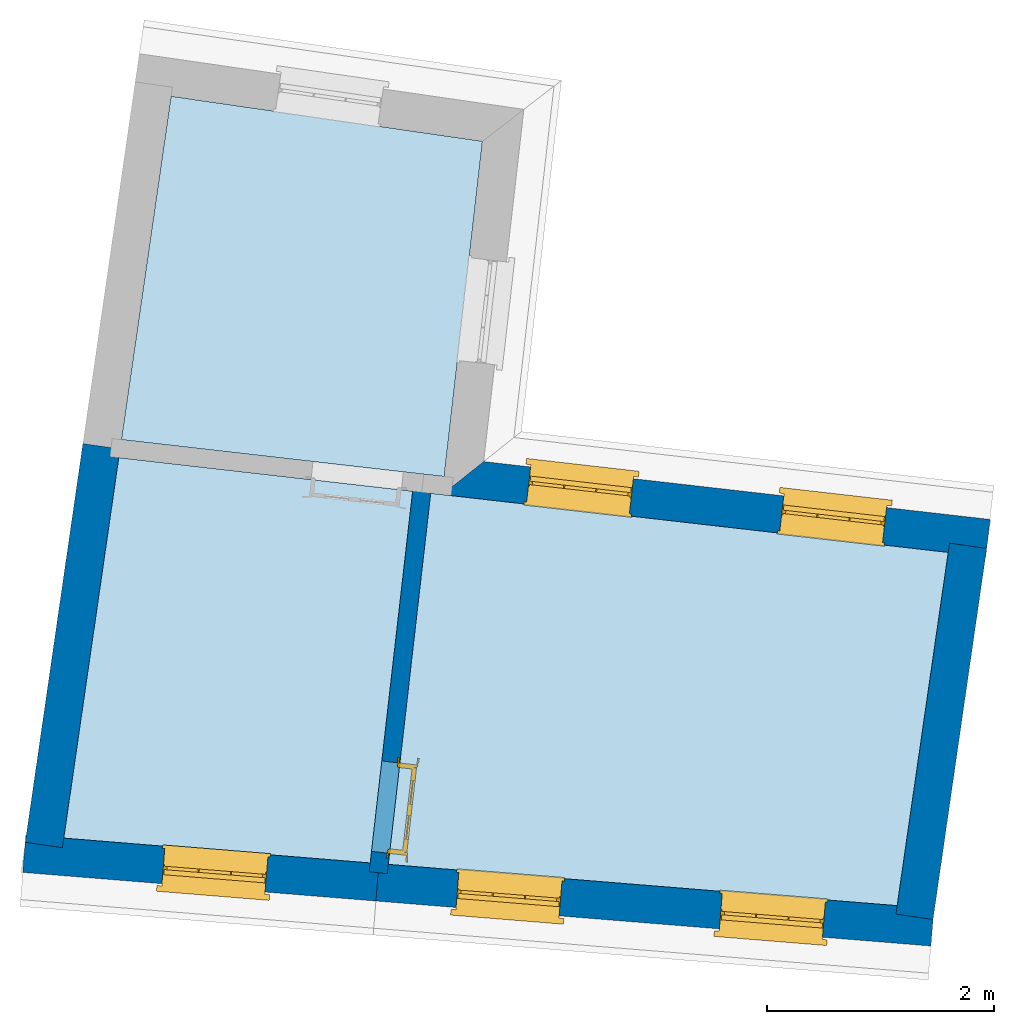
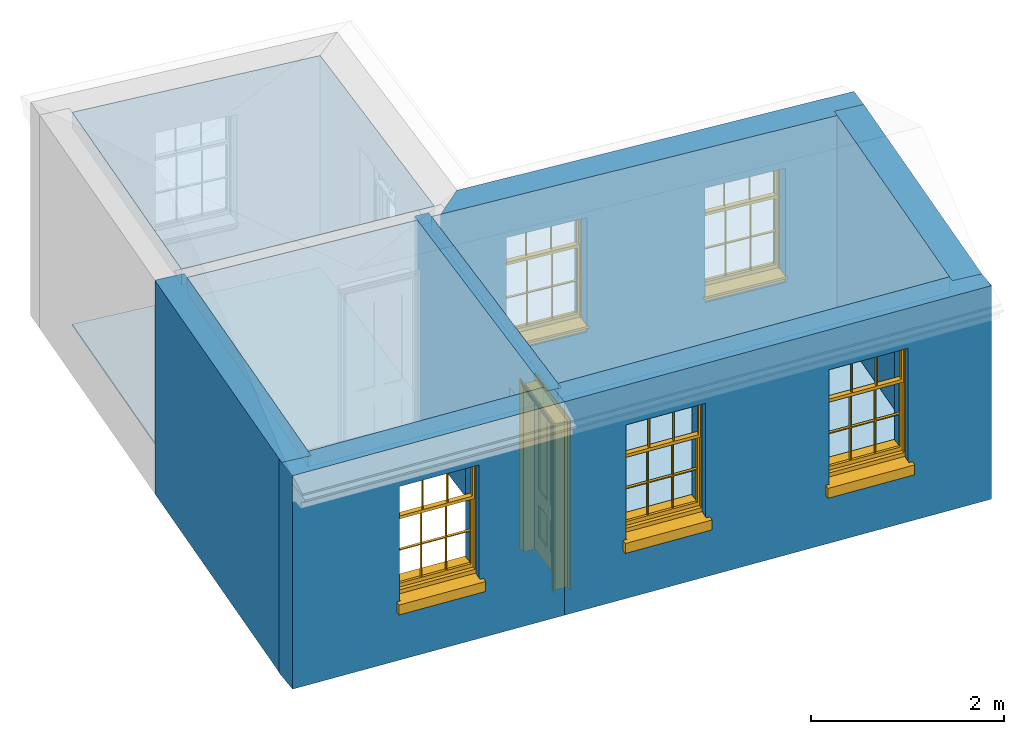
# One storey, part 1 of 3: 6 walls, 5 slabs, 5 windows, 1 door, 6 openings.
"""IFC4 building model written with IfcOpenShell, lengths in metres."""

from ifc_helpers import new_model, si_unit, frame, origin, origin_with_axes, place, context, subcontext, project, spatial, polyline, outline, extrude, faceted_brep, source, transform, mapped, material, layer, layer_set, layer_usage, type_object, type_shapes, element, fill, save


model = new_model("IFC4")

# Units and contexts
model_context = context("Model", 3, world=origin_with_axes())
body_context = subcontext(model_context, "Body", "Model", "MODEL_VIEW")
ifc_project = project(units=[si_unit("PLANEANGLEUNIT", "RADIAN"), si_unit("MASSUNIT", "GRAM", prefix="KILO"), si_unit("FORCEUNIT", "NEWTON", prefix="KILO"), si_unit("LENGTHUNIT", "METRE"), si_unit("AREAUNIT", "SQUARE_METRE"), si_unit("VOLUMEUNIT", "CUBIC_METRE")], contexts=[model_context, model_context])

# Sites, building, storey
site_1_placement = place(None, origin_with_axes())
site_1 = spatial("IfcSite", under=ifc_project, at=site_1_placement, Name="Tamar")
site_2_placement = place(site_1_placement, origin_with_axes())
site_2 = spatial("IfcSite", under=site_1, at=site_2_placement, Name="Site plot-31", CompositionType="ELEMENT")
building_placement = place(None, origin_with_axes())
building = spatial("IfcBuilding", under=site_2, at=building_placement, Name="Building plot-31", CompositionType="ELEMENT")
storey_placement = place(None, frame((0.0, 0.0, 31.35), z_axis=(0.0, 0.0, 1.0), x_axis=(1.0, 0.0, 0.0)))
storey = spatial("IfcBuildingStorey", under=building, at=storey_placement, Name="plot-31 2", CompositionType="ELEMENT", Elevation=31.35)

# Slabs
slab_1_placement = place(storey_placement, frame((300.330675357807, 260.471106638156, 2.5)))
element("IfcSlab", 1, at=slab_1_placement, inside=storey, Name="My Slab", ObjectType="Slab", PredefinedType="FLOOR", context=body_context, shape_type="SweptSolid", body=[
    extrude(outline(polyline([(0.0, 0.0), (-4.55208858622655, 0.52000624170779), (-4.92496413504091, -2.74411328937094), (-0.449277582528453, -3.10686870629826), (0.0, 0.0)])), origin_with_axes(), (0.0, 0.0, 1.0), 0.2),
])
slab_2_placement = place(storey_placement, frame((300.330675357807, 260.471106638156, 0.0)))
element("IfcSlab", 2, at=slab_2_placement, inside=storey, Name="My Slab", ObjectType="Slab", PredefinedType="FLOOR", context=body_context, shape_type="SweptSolid", body=[
    extrude(outline(polyline([(0.0, 0.0), (-4.55208858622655, 0.52000624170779), (-4.92496413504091, -2.74411328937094), (-0.449277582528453, -3.10686870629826), (0.0, 0.0)])), origin_with_axes(), (0.0, 0.0, 1.0), 0.02),
])
slab_3_placement = place(storey_placement, frame((293.034848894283, 261.304542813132, 2.5)))
element("IfcSlab", 3, at=slab_3_placement, inside=storey, Name="My Slab", ObjectType="Slab", PredefinedType="FLOOR", context=body_context, shape_type="SweptSolid", body=[
    extrude(outline(polyline([(0.0, 0.0), (-0.48388267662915, -3.34617172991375), (2.2112991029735, -3.56461682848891), (2.58477173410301, -0.29527049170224), (0.0, 0.0)])), origin_with_axes(), (0.0, 0.0, 1.0), 0.2),
])
slab_4_placement = place(storey_placement, frame((296.233911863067, 264.087379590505, 2.5)))
element("IfcSlab", 4, at=slab_4_placement, inside=storey, Name="My Slab", ObjectType="Slab", PredefinedType="FLOOR", context=body_context, shape_type="SweptSolid", body=[
    extrude(outline(polyline([(0.0, 0.0), (-2.73935903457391, 0.396132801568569), (-3.17615368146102, -2.62441323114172), (-0.336850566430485, -2.94876002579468), (0.0, 0.0)])), origin_with_axes(), (0.0, 0.0, 1.0), 0.2),
])
slab_5_placement = place(storey_placement, frame((296.233911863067, 264.087379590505, 0.0)))
element("IfcSlab", 5, at=slab_5_placement, inside=storey, Name="My Slab", ObjectType="Slab", PredefinedType="FLOOR", context=body_context, shape_type="SweptSolid", body=[
    extrude(outline(polyline([(0.0, 0.0), (-2.73935903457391, 0.396132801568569), (-3.17615368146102, -2.62441323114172), (-0.336850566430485, -2.94876002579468), (0.0, 0.0)])), origin_with_axes(), (0.0, 0.0, 1.0), 0.02),
])

# Wall, openings, windows
ifc_material_1 = material(Name="Masonry")
ifc_layer_1 = layer(ifc_material_1, 0.33, ventilated=False)
ifc_layer_set_1 = layer_set([ifc_layer_1], Name="exterior_0.08_0.25")
ifc_layer_usage_1 = layer_usage(ifc_layer_set_1, "AXIS2", "POSITIVE", -0.25)
wall_type_1 = type_object("IfcWallType", Name="exterior_0.08_0.25", PredefinedType="SOLIDWALL", material=ifc_layer_set_1)
wall_1_placement = place(storey_placement, frame((300.42164854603, 260.541234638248, 0.0), z_axis=(0.0, 0.0, 1.0), x_axis=(-0.993538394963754, 0.113496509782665, 0.0)))
wall_1 = element("IfcWall", 6, at=wall_1_placement, inside=storey, type_object=wall_type_1, material=ifc_layer_usage_1, Name="exterior", context=body_context, shape_type="SweptSolid", body=[
    extrude(outline(polyline([(-0.249999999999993, 0.0800000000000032), (-0.249999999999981, -0.249999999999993), (4.2331522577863, -0.249999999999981), (4.56315225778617, 0.0800000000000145), (-0.249999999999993, 0.0800000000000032)])), origin_with_axes(), (0.0, 0.0, 1.0), 2.7),
])
opening_1_placement = place(wall_1_placement, frame((0.665788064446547, 0.0, 0.75)))
opening_1 = element("IfcOpeningElement", 7, at=opening_1_placement, cuts=wall_1, Name="My Opening", ObjectType="Opening", context=body_context, shape_type="SweptSolid", body=[
    extrude(outline(polyline([(0.0, -0.27000000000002), (0.909999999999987, -0.270000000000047), (0.910000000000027, 1.09999999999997), (3.97459842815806e-14, 1.1), (0.0, -0.27000000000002)])), origin_with_axes(), (0.0, 0.0, 1.0), 1.445),
])
opening_2_placement = place(wall_1_placement, frame((2.90736419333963, 0.0, 0.75)))
opening_2 = element("IfcOpeningElement", 8, at=opening_2_placement, cuts=wall_1, Name="My Opening", ObjectType="Opening", context=body_context, shape_type="SweptSolid", body=[
    extrude(outline(polyline([(0.0, -0.269999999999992), (0.909999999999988, -0.270000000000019), (0.910000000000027, 1.1), (4.04121180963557e-14, 1.10000000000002), (0.0, -0.269999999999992)])), origin_with_axes(), (0.0, 0.0, 1.0), 1.445),
])
window_type = type_object("IfcWindowType", Name="sash_shorter", PartitioningType="DOUBLE_PANEL_HORIZONTAL", PredefinedType="NOTDEFINED")
shared_shape_1 = source(origin(), body_context, "Body", "Brep", [
    faceted_brep([(0.876875, 0.145, 0.999097), (0.876875, 0.145, 1.411875), (0.9, 0.145, 1.435), (0.033125, 0.145, 1.411875), (0.033125, 0.145, 0.999097), (0.01, 0.145, 1.435), (0.033125, 0.115, 1.411875), (0.01, 0.115, 1.435), (0.033125, 0.115, 0.999097), (0.876875, 0.115, 1.411875), (0.876875, 0.115, 0.999097), (0.9, 0.115, 1.435), (0.033125, 0.145, 0.960972), (0.01, 0.145, 0.960972), (0.033125, 0.145, 0.548195), (0.876875, 0.145, 0.960972), (0.876875, 0.145, 0.548195), (0.9, 0.145, 0.960972), (0.876875, 0.145, 0.538195), (0.876875, 0.145, 0.125417), (0.9, 0.145, 0.077167), (0.033125, 0.145, 0.125417), (0.033125, 0.145, 0.538195), (0.01, 0.145, 0.077167), (0.9, 0.115, 0.960972), (0.01, 0.115, 0.960972), (-0.0425, 0.0, 0.01), (-0.0425, -0.05, 0.001667), (0.0, 0.0, 0.01), (0.9525, 0.0, 0.01), (0.91, 0.0, 0.01), (0.9525, -0.05, 0.001667), (-0.02, 0.33, 0.077167), (0.0, 0.33, 0.077167), (-0.02, 0.36, 0.077167), (0.0, 0.19, 0.077167), (0.01, 0.19, 0.077167), (0.91, 0.19, 0.077167), (0.91, 0.33, 0.077167), (0.9, 0.19, 0.077167), (0.93, 0.33, 0.077167), (0.93, 0.36, 0.077167), (0.01, 0.145, 0.999097), (0.01, 0.175, 0.999097), (0.9, 0.145, 0.999097), (0.9, 0.175, 0.999097), (0.876875, 0.175, 0.125417), (0.876875, 0.175, 0.538195), (0.9, 0.175, 0.077167), (0.876875, 0.175, 0.548195), (0.876875, 0.175, 0.960972), (0.033125, 0.175, 0.125417), (0.01, 0.175, 0.077167), (0.033125, 0.175, 0.538195), (0.033125, 0.175, 0.960972), (0.033125, 0.175, 0.548195), (-0.02, 0.33, 0.052167), (-0.02, 0.36, 0.052167), (0.93, 0.36, 0.052167), (0.93, 0.33, 0.052167), (0.91, 0.33, 0.052167), (0.0, 0.33, 0.052167), (0.91, 0.1, 0.026667), (0.0, 0.1, 0.026667), (-0.0425, -0.05, -0.123333), (0.9525, -0.05, -0.123333), (-0.0425, 0.0, -0.123333), (0.9525, 0.0, -0.123333), (0.01, 0.19, 1.435), (0.9, 0.19, 1.435), (0.0, 0.19, 1.445), (0.91, 0.19, 1.445), (0.01, 0.1, 0.077167), (0.9, 0.1, 0.077167), (0.592292, 0.145, 0.125417), (0.592292, 0.175, 0.125417), (0.317708, 0.175, 0.125417), (0.317708, 0.145, 0.125417), (0.592292, 0.145, 0.548195), (0.317708, 0.145, 0.548195), (0.317708, 0.145, 0.538195), (0.592292, 0.145, 0.538195), (0.592292, 0.175, 0.548195), (0.317708, 0.175, 0.548195), (0.602292, 0.175, 0.548195), (0.602292, 0.145, 0.548195), (0.317708, 0.175, 0.538195), (0.307708, 0.175, 0.125417), (0.307708, 0.175, 0.538195), (0.602292, 0.175, 0.538195), (0.602292, 0.175, 0.125417), (0.592292, 0.175, 0.538195), (0.307708, 0.175, 0.548195), (0.317708, 0.175, 0.960972), (0.307708, 0.175, 0.960972), (0.602292, 0.175, 0.960972), (0.592292, 0.175, 0.960972), (0.307708, 0.145, 0.538195), (0.307708, 0.145, 0.125417), (0.307708, 0.145, 0.548195), (0.307708, 0.145, 0.960972), (0.592292, 0.145, 0.960972), (0.317708, 0.145, 0.960972), (0.602292, 0.145, 0.960972), (0.602292, 0.145, 0.538195), (0.602292, 0.145, 0.125417), (0.317708, 0.115, 1.411875), (0.307708, 0.115, 1.411875), (0.307708, 0.115, 0.999097), (0.317708, 0.115, 0.999097), (0.602292, 0.115, 1.411875), (0.592292, 0.115, 1.411875), (0.592292, 0.115, 0.999097), (0.602292, 0.115, 0.999097), (0.317708, 0.145, 0.999097), (0.307708, 0.145, 0.999097), (0.307708, 0.145, 1.411875), (0.317708, 0.145, 1.411875), (0.602292, 0.145, 0.999097), (0.592292, 0.145, 0.999097), (0.592292, 0.145, 1.411875), (0.602292, 0.145, 1.411875), (0.91, 0.1, 1.445), (0.9, 0.1, 1.435), (0.01, 0.1, 1.435), (0.0, 0.1, 1.445), (0.91, 0.0, 0.0), (0.0, 0.0, 0.0), (0.91, 0.33, 0.0), (0.0, 0.33, 0.0)], [[[0, 1, 2]], [[3, 4, 5]], [[6, 7, 8]], [[9, 10, 11]], [[12, 13, 14]], [[15, 16, 17]], [[18, 19, 20]], [[21, 22, 23]], [[24, 15, 17]], [[13, 12, 25]], [[26, 27, 28]], [[29, 30, 31]], [[32, 33, 34]], [[35, 36, 33]], [[37, 38, 39]], [[40, 41, 38]], [[42, 4, 43]], [[44, 45, 0]], [[46, 47, 48]], [[49, 50, 45]], [[51, 52, 53]], [[54, 55, 43]], [[38, 33, 36, 39]], [[41, 34, 33, 38]], [[56, 32, 34, 57]], [[57, 34, 41, 58]], [[58, 41, 40, 59]], [[57, 58, 60, 61]], [[52, 48, 39, 36]], [[62, 63, 28, 30]], [[27, 31, 30, 28]], [[27, 64, 65, 31]], [[66, 67, 65, 64]], [[2, 5, 68, 69]], [[68, 70, 71, 69]], [[20, 23, 72, 73]], [[73, 72, 63, 62]], [[74, 75, 76, 77]], [[78, 79, 80, 81]], [[78, 82, 83, 79]], [[16, 49, 84, 85]], [[86, 76, 87, 88]], [[89, 90, 75, 91]], [[92, 88, 53, 55]], [[82, 91, 86, 83]], [[93, 83, 92, 94]], [[95, 84, 82, 96]], [[89, 84, 49, 47]], [[97, 88, 87, 98]], [[22, 53, 88, 97]], [[81, 91, 75, 74]], [[80, 86, 91, 81]], [[77, 76, 86, 80]], [[99, 92, 55, 14]], [[100, 94, 92, 99]], [[101, 96, 82, 78]], [[79, 83, 93, 102]], [[85, 84, 95, 103]], [[104, 89, 47, 18]], [[105, 90, 89, 104]], [[104, 18, 16, 85]], [[80, 97, 98, 77]], [[104, 81, 74, 105]], [[103, 101, 78, 85]], [[99, 14, 22, 97]], [[102, 100, 99, 79]], [[106, 107, 108, 109]], [[110, 111, 112, 113]], [[114, 115, 116, 117]], [[118, 119, 120, 121]], [[107, 116, 115, 108]], [[111, 120, 119, 112]], [[109, 114, 117, 106]], [[113, 118, 121, 110]], [[85, 78, 81, 104]], [[84, 89, 91, 82]], [[83, 86, 88, 92]], [[79, 99, 97, 80]], [[109, 112, 119, 114]], [[102, 93, 96, 101]], [[106, 117, 120, 111]], [[98, 87, 51, 21]], [[6, 3, 116, 107]], [[110, 121, 1, 9]], [[19, 46, 90, 105]], [[26, 66, 64, 27]], [[29, 31, 65, 67]], [[25, 24, 112, 109]], [[11, 7, 106, 111]], [[75, 48, 52, 76]], [[43, 45, 96, 93]], [[45, 43, 114, 119]], [[5, 2, 120, 117]], [[24, 25, 102, 101]], [[42, 5, 4]], [[2, 44, 0]], [[49, 45, 48, 47]], [[52, 43, 55, 53]], [[14, 13, 23, 22]], [[20, 17, 16, 18]], [[24, 11, 10]], [[25, 8, 7]], [[8, 4, 3, 6]], [[9, 1, 0, 10]], [[15, 50, 49, 16]], [[18, 47, 46, 19]], [[21, 51, 53, 22]], [[14, 55, 54, 12]], [[44, 2, 69, 45]], [[68, 5, 42, 43]], [[36, 35, 70, 68]], [[39, 69, 71, 37]], [[62, 122, 123, 73]], [[63, 72, 124, 125]], [[8, 108, 115, 4]], [[113, 10, 0, 118]], [[94, 100, 12, 54]], [[17, 20, 73, 24]], [[72, 23, 13, 25]], [[52, 36, 68, 43]], [[69, 39, 48, 45]], [[11, 24, 73, 123]], [[7, 124, 72, 25]], [[23, 77, 98]], [[98, 21, 23]], [[105, 74, 20]], [[20, 19, 105]], [[20, 74, 77, 23]], [[113, 112, 24]], [[24, 10, 113]], [[25, 109, 108]], [[108, 8, 25]], [[110, 9, 11]], [[11, 111, 110]], [[7, 6, 107]], [[107, 106, 7]], [[5, 117, 116]], [[116, 3, 5]], [[121, 120, 2]], [[2, 1, 121]], [[11, 123, 124, 7]], [[122, 125, 124, 123]], [[43, 93, 94]], [[94, 54, 43]], [[96, 45, 95]], [[50, 95, 45]], [[15, 103, 95, 50]], [[48, 75, 90]], [[90, 46, 48]], [[87, 76, 52]], [[52, 51, 87]], [[103, 15, 24]], [[24, 101, 103]], [[100, 102, 25]], [[25, 12, 100]], [[115, 114, 43]], [[43, 4, 115]], [[118, 0, 45]], [[45, 119, 118]], [[71, 70, 125, 122]], [[70, 35, 63, 125]], [[122, 62, 37, 71]], [[126, 67, 66, 127]], [[60, 58, 59]], [[38, 60, 59, 40]], [[61, 56, 57]], [[32, 56, 61, 33]], [[61, 60, 128, 129]], [[62, 60, 38, 37]], [[126, 128, 60, 62]], [[33, 61, 63, 35]], [[61, 129, 127, 63]], [[128, 126, 127, 129]], [[28, 127, 66, 26]], [[63, 127, 28]], [[29, 67, 126, 30]], [[30, 126, 62]]]),
])
type_shapes(window_type, [shared_shape_1])
window_1_placement = place(storey_placement, frame((299.790806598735, 260.885054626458, 0.75), z_axis=(0.0, 0.0, 1.0), x_axis=(-0.904119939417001, 0.10328182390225, 0.0)))
window_1 = element("IfcWindow", 9, at=window_1_placement, inside=storey, type_object=window_type, Name="bedroom outside window", OverallHeight=1.445, OverallWidth=0.91, context=body_context, shape_type="MappedRepresentation", body=[
    mapped(shared_shape_1, transform((0.0, 0.0, 0.0), scale=1.0)),
])
fill(opening_1, window_1)
window_2_placement = place(storey_placement, frame((297.563714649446, 261.139465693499, 0.75), z_axis=(0.0, 0.0, 1.0), x_axis=(-0.904119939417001, 0.10328182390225, 0.0)))
window_2 = element("IfcWindow", 10, at=window_2_placement, inside=storey, type_object=window_type, Name="bedroom outside window", OverallHeight=1.445, OverallWidth=0.91, context=body_context, shape_type="MappedRepresentation", body=[
    mapped(shared_shape_1, transform((0.0, 0.0, 0.0), scale=1.0)),
])
fill(opening_2, window_2)

# Wall, opening, window
wall_2_placement = place(storey_placement, frame((292.459598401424, 257.885514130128, 0.0), z_axis=(0.0, 0.0, 1.0), x_axis=(0.996731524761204, -0.0807853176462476, 0.0)))
wall_2 = element("IfcWall", 11, at=wall_2_placement, inside=storey, type_object=wall_type_1, material=ifc_layer_usage_1, Name="exterior", context=body_context, shape_type="SweptSolid", body=[
    extrude(outline(polyline([(-0.249999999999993, 0.0800000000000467), (-0.25000000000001, -0.249999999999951), (2.86661604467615, -0.249999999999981), (2.86661604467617, 0.0800000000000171), (-0.249999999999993, 0.0800000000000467)])), origin_with_axes(), (0.0, 0.0, 1.0), 2.7),
])
opening_3_placement = place(wall_2_placement, frame((0.978308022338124, 0.0, 0.75)))
opening_3 = element("IfcOpeningElement", 12, at=opening_3_placement, cuts=wall_2, Name="My Opening", ObjectType="Opening", context=body_context, shape_type="SweptSolid", body=[
    extrude(outline(polyline([(0.0, -0.270000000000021), (0.909999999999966, -0.26999999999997), (0.909999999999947, 1.10000000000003), (-1.97619698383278e-14, 1.09999999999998), (0.0, -0.270000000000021)])), origin_with_axes(), (0.0, 0.0, 1.0), 1.445),
])
window_3_placement = place(storey_placement, frame((293.412896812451, 257.537363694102, 0.75), z_axis=(0.0, 0.0, 1.0), x_axis=(0.907025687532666, -0.0735146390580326, 0.0)))
window_3 = element("IfcWindow", 13, at=window_3_placement, inside=storey, type_object=window_type, Name="circulation outside window", OverallHeight=1.445, OverallWidth=0.91, context=body_context, shape_type="MappedRepresentation", body=[
    mapped(shared_shape_1, transform((0.0, 0.0, 0.0), scale=1.0)),
])
fill(opening_3, window_3)

# Wall, openings, windows
wall_3_placement = place(storey_placement, frame((295.316844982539, 257.653933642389, 0.0), z_axis=(0.0, 0.0, 1.0), x_axis=(0.99673152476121, -0.0807853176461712, 0.0)))
wall_3 = element("IfcWall", 14, at=wall_3_placement, inside=storey, type_object=wall_type_1, material=ifc_layer_usage_1, Name="exterior", context=body_context, shape_type="SweptSolid", body=[
    extrude(outline(polyline([(-6.79854810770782e-15, 0.080000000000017), (-4.88957373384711e-14, -0.24999999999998), (4.8981688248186, -0.249999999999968), (4.89816882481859, 0.0800000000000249), (-6.79854810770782e-15, 0.080000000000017)])), origin_with_axes(), (0.0, 0.0, 1.0), 2.7),
])
opening_4_placement = place(wall_3_placement, frame((0.707042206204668, 0.0, 0.75)))
opening_4 = element("IfcOpeningElement", 15, at=opening_4_placement, cuts=wall_3, Name="My Opening", ObjectType="Opening", context=body_context, shape_type="SweptSolid", body=[
    extrude(outline(polyline([(0.0, -0.269999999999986), (0.909999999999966, -0.270000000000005), (0.909999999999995, 1.09999999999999), (2.87547763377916e-14, 1.10000000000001), (0.0, -0.269999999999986)])), origin_with_axes(), (0.0, 0.0, 1.0), 1.445),
])
opening_5_placement = place(wall_3_placement, frame((3.03112661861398, 0.0, 0.75)))
opening_5 = element("IfcOpeningElement", 16, at=opening_5_placement, cuts=wall_3, Name="My Opening", ObjectType="Opening", context=body_context, shape_type="SweptSolid", body=[
    extrude(outline(polyline([(0.0, -0.269999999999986), (0.909999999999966, -0.270000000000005), (0.909999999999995, 1.09999999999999), (2.8421709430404e-14, 1.10000000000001), (0.0, -0.269999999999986)])), origin_with_axes(), (0.0, 0.0, 1.0), 1.445),
])
window_4_placement = place(storey_placement, frame((295.999764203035, 257.327697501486, 0.75), z_axis=(0.0, 0.0, 1.0), x_axis=(0.907025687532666, -0.0735146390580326, 0.0)))
window_4 = element("IfcWindow", 17, at=window_4_placement, inside=storey, type_object=window_type, Name="bedroom outside window", OverallHeight=1.445, OverallWidth=0.91, context=body_context, shape_type="MappedRepresentation", body=[
    mapped(shared_shape_1, transform((0.0, 0.0, 0.0), scale=1.0)),
])
fill(opening_4, window_4)
window_5_placement = place(storey_placement, frame((298.31625240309, 257.139945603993, 0.75), z_axis=(0.0, 0.0, 1.0), x_axis=(0.907025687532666, -0.0735146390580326, 0.0)))
window_5 = element("IfcWindow", 18, at=window_5_placement, inside=storey, type_object=window_type, Name="bedroom outside window", OverallHeight=1.445, OverallWidth=0.91, context=body_context, shape_type="MappedRepresentation", body=[
    mapped(shared_shape_1, transform((0.0, 0.0, 0.0), scale=1.0)),
])
fill(opening_5, window_5)

# Walls
ifc_material_2 = material(Name="Masonry")
ifc_layer_2 = layer(ifc_material_2, 0.33, ventilated=False)
ifc_layer_set_2 = layer_set([ifc_layer_2], Name="party_0.08_0.25")
ifc_layer_usage_2 = layer_usage(ifc_layer_set_2, "AXIS2", "POSITIVE", -0.25)
wall_type_2 = type_object("IfcWallType", Name="party_0.08_0.25", PredefinedType="SOLIDWALL", material=ifc_layer_set_2)
wall_4_placement = place(storey_placement, frame((299.949821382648, 257.278429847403, 0.0), z_axis=(0.0, 0.0, 1.0), x_axis=(0.143119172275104, 0.989705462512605, 0.0)))
element("IfcWall", 19, at=wall_4_placement, inside=storey, type_object=wall_type_2, material=ifc_layer_usage_2, Name="party", context=body_context, shape_type="SweptSolid", body=[
    extrude(outline(polyline([(2.42074388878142e-15, 0.0800000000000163), (-2.2744263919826e-14, -0.249999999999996), (3.29674323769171, -0.249999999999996), (3.29674323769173, 0.080000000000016), (2.42074388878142e-15, 0.0800000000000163)])), origin_with_axes(), (0.0, 0.0, 1.0), 2.7),
])
wall_5_placement = place(storey_placement, frame((292.966784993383, 261.392838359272, 0.0), z_axis=(0.0, 0.0, 1.0), x_axis=(-0.143119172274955, -0.989705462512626, 0.0)))
element("IfcWall", 20, at=wall_5_placement, inside=storey, type_object=wall_type_2, material=ifc_layer_usage_2, Name="party", context=body_context, shape_type="SweptSolid", body=[
    extrude(outline(polyline([(1.44803760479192e-14, 0.0800000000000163), (-6.03808244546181e-14, -0.249999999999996), (3.54380607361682, -0.249999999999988), (3.54380607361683, 0.0800000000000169), (1.44803760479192e-14, 0.0800000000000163)])), origin_with_axes(), (0.0, 0.0, 1.0), 2.7),
])

# Wall, opening, door
ifc_material_3 = material(Name="Masonry")
ifc_layer_3 = layer(ifc_material_3, 0.16, ventilated=False)
ifc_layer_set_3 = layer_set([ifc_layer_3], Name="interior_0.08_0.08")
ifc_layer_usage_3 = layer_usage(ifc_layer_set_3, "AXIS2", "POSITIVE", -0.08)
wall_type_3 = type_object("IfcWallType", Name="interior_0.08_0.08", PredefinedType="SOLIDWALL", material=ifc_layer_set_3)
wall_6_placement = place(storey_placement, frame((295.708183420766, 261.079675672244, 0.0), z_axis=(0.0, 0.0, 1.0), x_axis=(-0.113496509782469, -0.993538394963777, 0.0)))
wall_6 = element("IfcWall", 21, at=wall_6_placement, inside=storey, type_object=wall_type_3, material=ifc_layer_usage_3, Name="interior", context=body_context, shape_type="SweptSolid", body=[
    extrude(outline(polyline([(9.93290253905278e-15, 0.0800000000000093), (-9.97822685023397e-15, -0.0800000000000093), (3.44802178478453, -0.0800000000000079), (3.44802178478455, 0.0800000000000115), (9.93290253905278e-15, 0.0800000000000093)])), origin_with_axes(), (0.0, 0.0, 1.0), 2.7),
])
opening_6_placement = place(wall_6_placement, frame((2.4680217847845, 0.0, 0.0199999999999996)))
opening_6 = element("IfcOpeningElement", 22, at=opening_6_placement, cuts=wall_6, Name="My Opening", ObjectType="Opening", context=body_context, shape_type="SweptSolid", body=[
    extrude(outline(polyline([(0.0, -0.100000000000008), (0.800000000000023, -0.100000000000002), (0.80000000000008, 1.09999999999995), (5.55111512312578e-14, 1.09999999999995), (0.0, -0.100000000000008)])), origin_with_axes(), (0.0, 0.0, 1.0), 2.1),
])
door_type = type_object("IfcDoorType", Name="door_inside", OperationType="SINGLE_SWING_LEFT", PredefinedType="NOTDEFINED")
shared_shape_2 = source(origin(), body_context, "Body", "Brep", [
    faceted_brep([(0.773, 0.33, 1.895), (0.66, 0.33, 1.895), (0.66, 0.33, 2.073), (0.773, 0.33, 2.073), (0.773, 0.33, 0.82), (0.66, 0.33, 0.82), (0.45, 0.33, 1.895), (0.45, 0.33, 2.073), (0.773, 0.33, 0.62), (0.66, 0.33, 0.62), (0.66, 0.315, 0.82), (0.66, 0.315, 1.895), (0.45, 0.315, 1.895), (0.35, 0.33, 1.895), (0.35, 0.33, 2.073), (0.773, 0.33, 0.225), (0.66, 0.33, 0.225), (0.45, 0.33, 0.62), (0.45, 0.33, 0.82), (0.45, 0.315, 0.82), (0.35, 0.33, 0.82), (0.14, 0.33, 2.073), (0.14, 0.33, 1.895), (0.773, 0.33, 0.0), (0.66, 0.33, 0.0), (0.66, 0.315, 0.225), (0.66, 0.315, 0.62), (0.45, 0.315, 0.62), (0.35, 0.33, 0.62), (0.35, 0.315, 0.82), (0.35, 0.315, 1.895), (0.14, 0.315, 1.895), (0.027, 0.33, 2.073), (0.027, 0.33, 1.895), (0.773, 0.292, 0.0), (0.66, 0.292, 0.0), (0.45, 0.33, 0.0), (0.45, 0.33, 0.225), (0.45, 0.315, 0.225), (0.35, 0.33, 0.225), (0.14, 0.33, 0.82), (0.14, 0.33, 0.62), (0.14, 0.315, 0.82), (0.027, 0.33, 0.82), (0.773, 0.292, 0.225), (0.66, 0.292, 0.225), (0.45, 0.292, 0.0), (0.35, 0.33, 0.0), (0.35, 0.315, 0.225), (0.35, 0.315, 0.62), (0.14, 0.315, 0.62), (0.027, 0.33, 0.62), (0.773, 0.292, 0.62), (0.66, 0.292, 0.62), (0.45, 0.292, 0.225), (0.35, 0.292, 0.0), (0.14, 0.33, 0.225), (0.14, 0.33, 0.0), (0.14, 0.315, 0.225), (0.027, 0.33, 0.225), (0.773, 0.292, 0.82), (0.66, 0.292, 0.82), (0.66, 0.307, 0.62), (0.66, 0.307, 0.225), (0.45, 0.307, 0.225), (0.35, 0.292, 0.225), (0.14, 0.292, 0.0), (0.027, 0.33, 0.0), (0.773, 0.292, 1.895), (0.66, 0.292, 1.895), (0.45, 0.292, 0.62), (0.45, 0.292, 0.82), (0.45, 0.307, 0.62), (0.35, 0.292, 0.62), (0.14, 0.292, 0.225), (0.027, 0.292, 0.0), (0.773, 0.292, 2.073), (0.66, 0.292, 2.073), (0.66, 0.307, 1.895), (0.66, 0.307, 0.82), (0.45, 0.307, 0.82), (0.35, 0.292, 0.82), (0.35, 0.307, 0.62), (0.35, 0.307, 0.225), (0.14, 0.307, 0.225), (0.027, 0.292, 0.225), (0.45, 0.292, 1.895), (0.45, 0.292, 2.073), (0.45, 0.307, 1.895), (0.35, 0.292, 1.895), (0.14, 0.292, 0.82), (0.14, 0.292, 0.62), (0.14, 0.307, 0.62), (0.027, 0.292, 0.62), (0.35, 0.292, 2.073), (0.35, 0.307, 1.895), (0.35, 0.307, 0.82), (0.14, 0.307, 0.82), (0.027, 0.292, 0.82), (0.14, 0.292, 2.073), (0.14, 0.292, 1.895), (0.14, 0.307, 1.895), (0.027, 0.292, 1.895), (0.027, 0.292, 2.073), (0.02, 0.335, 0.0), (0.005, 0.34, 0.0), (0.005, 0.34, 2.095), (0.02, 0.335, 2.08), (0.02, 0.33, 0.0), (0.0, 0.335, 0.0), (0.0, 0.335, 2.1), (0.795, 0.34, 2.095), (0.78, 0.335, 2.08), (0.02, 0.33, 2.08), (0.0, 0.33, 0.0), (-0.032, 0.345, 0.0), (-0.032, 0.345, 2.132), (0.8, 0.335, 2.1), (0.795, 0.34, 0.0), (0.78, 0.335, 0.0), (0.78, 0.33, 2.08), (0.04, 0.29, 0.0), (0.025, 0.29, 0.0), (0.025, 0.29, 2.075), (0.04, 0.29, 2.06), (-0.04, 0.34, 0.0), (-0.04, 0.34, 2.14), (0.832, 0.345, 2.132), (0.8, 0.335, 0.0), (0.78, 0.33, 0.0), (0.8, 0.33, 0.0), (0.86, 0.33, 0.0), (0.86, 0.33, 2.16), (0.8, 0.33, 2.1), (-0.06, 0.33, 2.16), (0.0, 0.33, 2.1), (-0.06, 0.33, 0.0), (-0.04, 0.345, 0.0), (-0.04, 0.345, 2.14), (0.84, 0.34, 2.14), (0.832, 0.345, 0.0), (0.84, 0.34, 0.0), (0.86, 0.345, 0.0), (0.86, 0.345, 2.16), (-0.06, 0.345, 2.16), (-0.06, 0.345, 0.0), (0.84, 0.345, 0.0), (0.84, 0.345, 2.14), (-0.025, 0.155, 0.0), (-0.025, 0.16, 0.0), (-0.025, 0.16, 2.125), (-0.025, 0.155, 2.125), (-0.017, 0.155, 0.0), (-0.017, 0.155, 2.117), (0.825, 0.16, 2.125), (0.825, 0.155, 2.125), (0.825, 0.155, 0.0), (0.845, 0.155, 0.0), (-0.045, 0.155, 2.145), (-0.045, 0.155, 0.0), (0.845, 0.155, 2.145), (0.015, 0.165, 0.0), (0.015, 0.165, 2.085), (0.817, 0.155, 2.117), (0.825, 0.16, 0.0), (0.845, 0.17, 0.0), (0.845, 0.17, 2.145), (-0.045, 0.17, 2.145), (-0.045, 0.17, 0.0), (0.02, 0.16, 0.0), (0.02, 0.16, 2.08), (0.785, 0.165, 2.085), (0.817, 0.155, 0.0), (0.8, 0.17, 0.0), (0.8, 0.17, 2.1), (0.0, 0.17, 2.1), (0.0, 0.17, 0.0), (0.035, 0.165, 0.0), (0.035, 0.165, 2.065), (0.78, 0.16, 2.08), (0.785, 0.165, 0.0), (0.775, 0.29, 2.075), (0.76, 0.29, 2.06), (0.035, 0.17, 2.065), (0.035, 0.17, 0.0), (0.765, 0.165, 2.065), (0.78, 0.16, 0.0), (0.765, 0.17, 0.0), (0.765, 0.17, 2.065), (0.765, 0.165, 0.0), (0.04, 0.17, 2.06), (0.04, 0.17, 0.0), (0.76, 0.17, 2.06), (0.76, 0.17, 0.0), (0.76, 0.29, 0.0), (0.775, 0.29, 0.0), (0.025, 0.33, 0.0), (0.025, 0.33, 2.075), (0.775, 0.33, 0.0), (0.775, 0.33, 2.075)], [[[0, 1, 2, 3]], [[1, 0, 4, 5]], [[1, 6, 7, 2]], [[8, 9, 5, 4]], [[1, 5, 10, 11]], [[6, 1, 11, 12]], [[6, 13, 14, 7]], [[15, 16, 9, 8]], [[9, 17, 18, 5]], [[5, 18, 19, 10]], [[10, 19, 12, 11]], [[18, 6, 12, 19]], [[18, 20, 13, 6]], [[21, 14, 13, 22]], [[23, 24, 16, 15]], [[9, 16, 25, 26]], [[17, 9, 26, 27]], [[17, 28, 20, 18]], [[13, 20, 29, 30]], [[22, 13, 30, 31]], [[32, 21, 22, 33]], [[34, 35, 24, 23]], [[24, 36, 37, 16]], [[16, 37, 38, 25]], [[25, 38, 27, 26]], [[37, 17, 27, 38]], [[37, 39, 28, 17]], [[40, 20, 28, 41]], [[20, 40, 42, 29]], [[31, 30, 29, 42]], [[40, 22, 31, 42]], [[33, 22, 40, 43]], [[35, 34, 44, 45]], [[35, 46, 36, 24]], [[36, 47, 39, 37]], [[28, 39, 48, 49]], [[41, 28, 49, 50]], [[43, 40, 41, 51]], [[45, 44, 52, 53]], [[46, 35, 45, 54]], [[46, 55, 47, 36]], [[56, 39, 47, 57]], [[39, 56, 58, 48]], [[50, 49, 48, 58]], [[56, 41, 50, 58]], [[51, 41, 56, 59]], [[53, 52, 60, 61]], [[45, 53, 62, 63]], [[54, 45, 63, 64]], [[55, 46, 54, 65]], [[55, 66, 57, 47]], [[59, 56, 57, 67]], [[61, 60, 68, 69]], [[70, 53, 61, 71]], [[53, 70, 72, 62]], [[72, 64, 63, 62]], [[70, 54, 64, 72]], [[65, 54, 70, 73]], [[65, 74, 66, 55]], [[67, 57, 66, 75]], [[69, 68, 76, 77]], [[61, 69, 78, 79]], [[71, 61, 79, 80]], [[73, 70, 71, 81]], [[65, 73, 82, 83]], [[74, 65, 83, 84]], [[74, 85, 75, 66]], [[86, 69, 77, 87]], [[69, 86, 88, 78]], [[88, 80, 79, 78]], [[86, 71, 80, 88]], [[81, 71, 86, 89]], [[73, 81, 90, 91]], [[73, 91, 92, 82]], [[83, 82, 92, 84]], [[91, 74, 84, 92]], [[91, 93, 85, 74]], [[89, 86, 87, 94]], [[81, 89, 95, 96]], [[90, 81, 96, 97]], [[90, 98, 93, 91]], [[94, 99, 100, 89]], [[89, 100, 101, 95]], [[101, 97, 96, 95]], [[100, 90, 97, 101]], [[100, 102, 98, 90]], [[99, 103, 102, 100]], [[32, 103, 99, 21]], [[102, 103, 32, 33]], [[98, 102, 33, 43]], [[21, 99, 94, 14]], [[94, 87, 7, 14]], [[7, 87, 77, 2]], [[76, 3, 2, 77]], [[43, 51, 93, 98]], [[51, 59, 85, 93]], [[67, 75, 85, 59]], [[34, 23, 15, 44]], [[44, 15, 8, 52]], [[52, 8, 4, 60]], [[0, 68, 60, 4]], [[0, 3, 76, 68]], [[104, 105, 106, 107]], [[104, 108, 109, 105]], [[105, 109, 110, 106]], [[107, 106, 111, 112]], [[107, 113, 108, 104]], [[114, 109, 108]], [[109, 115, 116, 110]], [[106, 110, 117, 111]], [[112, 111, 118, 119]], [[113, 107, 112, 120]], [[121, 122, 123, 124]], [[115, 109, 114, 125]], [[115, 125, 126, 116]], [[110, 116, 127, 117]], [[111, 117, 128, 118]], [[118, 128, 129, 119]], [[120, 112, 119, 129]], [[130, 129, 128]], [[130, 131, 132, 133]], [[133, 132, 134, 135]], [[135, 134, 136, 114]], [[136, 125, 114]], [[125, 137, 138, 126]], [[116, 126, 139, 127]], [[117, 127, 140, 128]], [[141, 130, 128, 140]], [[131, 130, 141]], [[131, 142, 143, 132]], [[132, 143, 144, 134]], [[134, 144, 145, 136]], [[137, 125, 136, 145]], [[143, 142, 146]], [[143, 146, 147]], [[137, 145, 144]], [[143, 147, 138]], [[138, 137, 144]], [[143, 138, 144]], [[126, 138, 147, 139]], [[127, 139, 141, 140]], [[142, 131, 141, 146]], [[139, 147, 146, 141]], [[148, 149, 150, 151]], [[149, 152, 153, 150]], [[151, 150, 154, 155]], [[155, 156, 157]], [[158, 159, 148]], [[158, 148, 151]], [[155, 157, 160]], [[158, 151, 155]], [[155, 160, 158]], [[152, 161, 162, 153]], [[150, 153, 163, 154]], [[155, 154, 164, 156]], [[156, 164, 165, 157]], [[157, 165, 166, 160]], [[160, 166, 167, 158]], [[158, 167, 168, 159]], [[161, 169, 170, 162]], [[153, 162, 171, 163]], [[154, 163, 172, 164]], [[165, 164, 173]], [[165, 173, 174, 166]], [[166, 174, 175, 167]], [[167, 175, 176, 168]], [[169, 177, 178, 170]], [[162, 170, 179, 171]], [[163, 171, 180, 172]], [[172, 180, 173, 164]], [[124, 123, 181, 182]], [[183, 178, 177, 184]], [[170, 178, 185, 179]], [[171, 179, 186, 180]], [[187, 173, 180]], [[185, 188, 187, 189]], [[188, 185, 178, 183]], [[179, 185, 189, 186]], [[189, 187, 180, 186]], [[190, 183, 184, 191]], [[192, 188, 183, 190]], [[191, 184, 122, 121]], [[124, 190, 191, 121]], [[193, 187, 188, 192]], [[182, 192, 190, 124]], [[184, 176, 122]], [[194, 195, 187, 193]], [[192, 182, 194, 193]], [[161, 176, 184]], [[114, 108, 122, 176]], [[173, 187, 195]], [[152, 149, 176, 161]], [[169, 161, 184, 177]], [[196, 122, 108]], [[176, 175, 135, 114]], [[173, 195, 129, 130]], [[176, 149, 168]], [[123, 122, 196, 197]], [[196, 108, 113, 197]], [[175, 174, 133, 135]], [[198, 129, 195]], [[133, 174, 173, 130]], [[159, 168, 149, 148]], [[181, 123, 197, 199]], [[197, 113, 120, 199]], [[199, 120, 129, 198]], [[195, 181, 199, 198]], [[195, 194, 182, 181]]]),
])
type_shapes(door_type, [shared_shape_2])
door_placement = place(storey_placement, frame((295.328717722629, 258.638950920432, 0.0199999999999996), z_axis=(0.0, 0.0, 1.0), x_axis=(-0.0907972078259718, -0.794830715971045, 0.0)))
door = element("IfcDoor", 23, at=door_placement, inside=storey, type_object=door_type, Name="bedroom inside door", OverallHeight=2.1, OverallWidth=0.8, context=body_context, shape_type="MappedRepresentation", body=[
    mapped(shared_shape_2, transform((0.0, 0.0, 0.0), scale=1.0)),
])
fill(opening_6, door)

save(model, "model.ifc")
